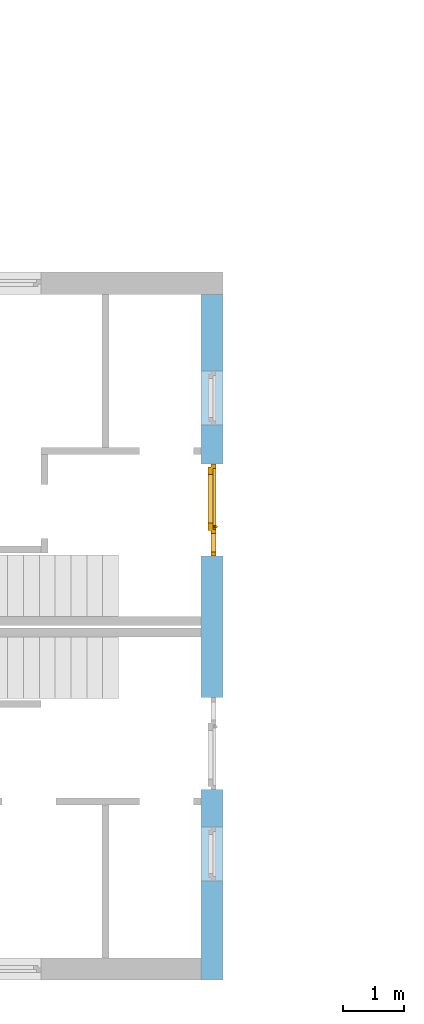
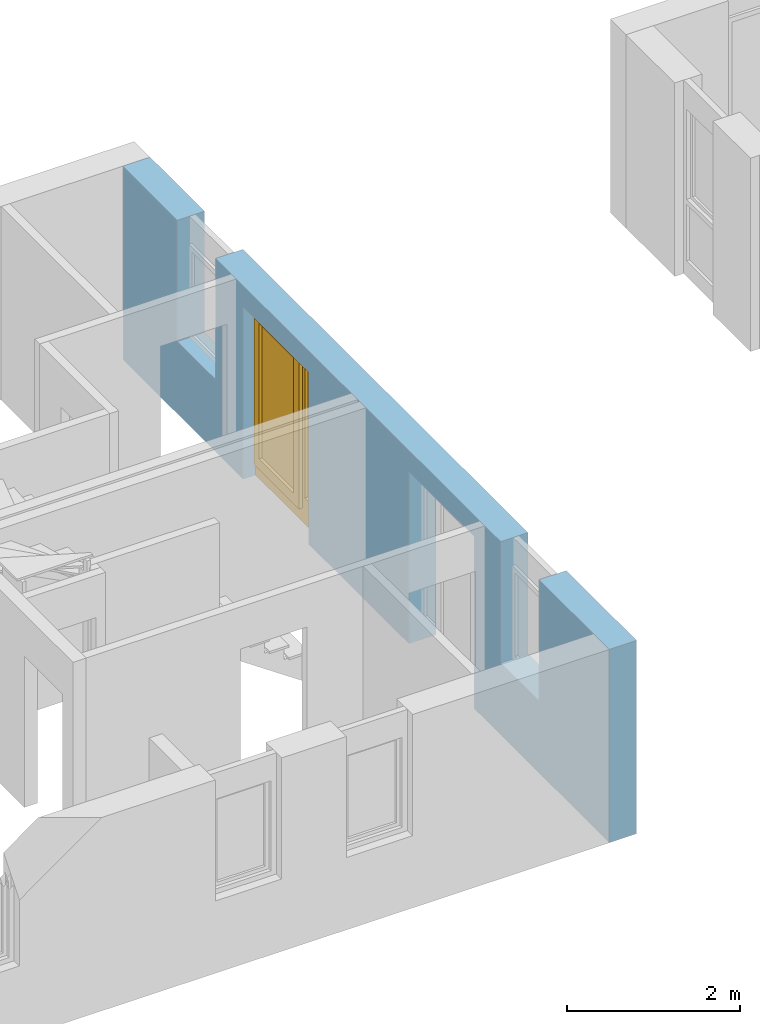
# One storey, part 8 of 41: 1 door, 4 openings, plus 1 element that does not belong to this part.
"""IFC2X3 building model written with IfcOpenShell, lengths in millimetres."""

import ifcopenshell
import ifcopenshell.guid

model = None  # the IFC model being written
_history = None  # IfcOwnerHistory: only IFC2X3 demands one
_inside = {}  # id of a spatial element -> (the spatial element, [elements in it])
_under = {}  # id of a project, library or spatial element -> (it, [spatial elements below it])
_declared = {}  # id of a project -> (the project, [libraries it declares])
_typed = {}  # id of a type object -> (the type object, [elements of that type])
_made_of = {}  # id of a material, layer set ... -> (it, [elements and type objects made of it])


def new_model(schema):
    """Start an empty IFC model of exactly this schema.

    Asked for "IFC4X3", IfcOpenShell would pick the latest addendum, in which some entities
    have other attributes; the version numbers below select the first issue.
    IFC2X3 requires an IfcOwnerHistory on every rooted entity: one is made here for all.
    """
    global model, _history
    if schema == "IFC4X3":
        model = ifcopenshell.file(schema_version=(4, 3, 0, 0))
    else:
        model = ifcopenshell.file(schema=schema)
    _inside.clear()
    _under.clear()
    _declared.clear()
    _typed.clear()
    _made_of.clear()
    _history = None
    if model.schema == "IFC2X3":
        org = make("IfcOrganization", Name="unknown")
        user = make(
            "IfcPersonAndOrganization",
            ThePerson=make("IfcPerson", FamilyName="unknown"),
            TheOrganization=org,
        )
        app = make(
            "IfcApplication",
            ApplicationDeveloper=org,
            Version="unknown",
            ApplicationFullName="unknown",
            ApplicationIdentifier="unknown",
        )
        _history = make(
            "IfcOwnerHistory",
            OwningUser=user,
            OwningApplication=app,
            ChangeAction="ADDED",
            CreationDate=0,
        )
    return model


def make(cls, **values):
    """One entity of the class cls with the attributes given. An attribute that is None is left unset."""
    return model.create_entity(
        cls, **{name: value for name, value in values.items() if value is not None}
    )


def entity(cls, *values):
    """Any entity or typed value of the class cls, its attributes in the order of the schema. None: left unset."""
    e = model.create_entity(cls)
    for i, value in enumerate(values):
        if value is not None:
            e[i] = value
    return e


def rooted(cls, **values):
    """An entity with a GlobalId (a new one), such as an element, a storey or a relation."""
    return make(cls, GlobalId=ifcopenshell.guid.new(), OwnerHistory=_history, **values)


def si_unit(unit_type, name, prefix=None):
    """IfcSIUnit, for example si_unit("LENGTHUNIT", "METRE", prefix="MILLI")."""
    return make("IfcSIUnit", UnitType=unit_type, Prefix=prefix, Name=name)


def converted_unit(unit_type, name, factor, base, dimensions=None, offset=None):
    """IfcConversionBasedUnit, such as the inch: factor (a typed value) times the base unit."""
    return make(
        "IfcConversionBasedUnit"
        if offset is None
        else "IfcConversionBasedUnitWithOffset",
        ConversionOffset=offset,
        Dimensions=None
        if dimensions is None
        else entity("IfcDimensionalExponents", *dimensions),
        UnitType=unit_type,
        Name=name,
        ConversionFactor=make(
            "IfcMeasureWithUnit", ValueComponent=factor, UnitComponent=base
        ),
    )


def assignment(units):
    """IfcUnitAssignment: the units of a project."""
    return None if units is None else make("IfcUnitAssignment", Units=units)


def point(xyz):
    """IfcCartesianPoint."""
    return None if xyz is None else make("IfcCartesianPoint", Coordinates=xyz)


def direction(xyz):
    """IfcDirection."""
    return None if xyz is None else make("IfcDirection", DirectionRatios=xyz)


def frame(location, z_axis=None, x_axis=None):
    """IfcAxis2Placement3D, a coordinate frame: its origin and axes. An axis left out is left unset."""
    return make(
        "IfcAxis2Placement3D",
        Location=point(location),
        Axis=direction(z_axis),
        RefDirection=direction(x_axis),
    )


def frame_2d(location, x_axis=None):
    """IfcAxis2Placement2D, a coordinate frame in the plane: its origin and x axis."""
    return make(
        "IfcAxis2Placement2D", Location=point(location), RefDirection=direction(x_axis)
    )


def origin():
    """The frame at (0, 0, 0) with its axes left unset."""
    return frame((0.0, 0.0, 0.0))


def origin_with_axes():
    """The frame at (0, 0, 0) with the z axis (0, 0, 1) and the x axis (1, 0, 0) written out."""
    return frame((0.0, 0.0, 0.0), z_axis=(0.0, 0.0, 1.0), x_axis=(1.0, 0.0, 0.0))


def place(relative_to, where):
    """IfcLocalPlacement: puts the frame where relative to a parent placement (None: the world)."""
    return make(
        "IfcLocalPlacement", PlacementRelTo=relative_to, RelativePlacement=where
    )


def context(
    kind, dimensions, precision=None, world=None, true_north=None, identifier=None
):
    """IfcGeometricRepresentationContext, for example the 3D "Model" context."""
    return make(
        "IfcGeometricRepresentationContext",
        ContextIdentifier=identifier,
        ContextType=kind,
        CoordinateSpaceDimension=dimensions,
        Precision=precision,
        WorldCoordinateSystem=world,
        TrueNorth=true_north,
    )


def subcontext(parent, identifier, kind, view, scale=None):
    """IfcGeometricRepresentationSubContext, for example "Body" below "Model"."""
    return make(
        "IfcGeometricRepresentationSubContext",
        ContextIdentifier=identifier,
        ContextType=kind,
        ParentContext=parent,
        TargetScale=scale,
        TargetView=view,
    )


def project(units=None, contexts=None):
    """IfcProject with its units and contexts."""
    return rooted(
        "IfcProject",
        Name="project",
        RepresentationContexts=contexts,
        UnitsInContext=assignment(units),
    )


def spatial(cls, under=None, at=None, **own):
    """A site, building, storey or space (cls), placed at a placement, below another one or the project."""
    s = rooted(cls, ObjectPlacement=at, **own)
    if under is not None:
        _under.setdefault(under.id(), (under, []))[1].append(s)
    return s


def profile(cls, at=None, kind="AREA", **sizes):
    """A parametric profile (cls). Its sizes go by their IFC names, for example OverallWidth=200.0."""
    return make(cls, ProfileType=kind, Position=at, **sizes)


def rectangle(**sizes):
    """IfcRectangleProfileDef."""
    return profile("IfcRectangleProfileDef", **sizes)


def extrude(swept, where, along, depth):
    """IfcExtrudedAreaSolid: the profile swept, set in the frame where, extruded along a direction by depth."""
    return make(
        "IfcExtrudedAreaSolid",
        SweptArea=swept,
        Position=where,
        ExtrudedDirection=direction(along),
        Depth=depth,
    )


def faces_of(points, faces, orient=None, outer=None):
    """IfcFace entities. A face is a list of loops; a loop is a list of indices into points, from 0.

    orient and outer hold one flag for each loop. By default every Orientation is true, the
    first loop of a face is its IfcFaceOuterBound and the others are IfcFaceBound.
    """
    made = []
    for i, loops in enumerate(faces):
        bounds = []
        for j, loop in enumerate(loops):
            is_outer = j == 0 if outer is None else outer[i][j]
            bounds.append(
                make(
                    "IfcFaceOuterBound" if is_outer else "IfcFaceBound",
                    Bound=make("IfcPolyLoop", Polygon=[points[k] for k in loop]),
                    Orientation=True if orient is None else orient[i][j],
                )
            )
        made.append(make("IfcFace", Bounds=bounds))
    return made


def faceted_brep(points, faces, orient=None, outer=None, voids=None):
    """IfcFacetedBrep: a solid bounded by flat faces; with voids (closed shells), ...WithVoids."""
    shared = [point(p) for p in points]
    hull = make("IfcClosedShell", CfsFaces=faces_of(shared, faces, orient, outer))
    if voids is None:
        return make("IfcFacetedBrep", Outer=hull)
    return make(
        "IfcFacetedBrepWithVoids",
        Outer=hull,
        Voids=[
            make(cls, CfsFaces=faces_of(shared, fs, o, b)) for cls, fs, o, b in voids
        ],
    )


def shape(context_of_items, identifier, shape_type, items):
    """IfcShapeRepresentation: the items that make up one representation, for example the "Body"."""
    return make(
        "IfcShapeRepresentation",
        ContextOfItems=context_of_items,
        RepresentationIdentifier=identifier,
        RepresentationType=shape_type,
        Items=items,
    )


def material(Name=None, Category=None):
    """IfcMaterial."""
    return make("IfcMaterial", Name=Name, Category=Category)


def layer(
    of_material, thickness, ventilated=None, Name=None, Category=None, Priority=None
):
    """IfcMaterialLayer: one layer of a wall or slab, of a material (None: an air gap)."""
    return make(
        "IfcMaterialLayer",
        Material=of_material,
        LayerThickness=thickness,
        IsVentilated=ventilated,
        Name=Name,
        Category=Category,
        Priority=Priority,
    )


def layer_set(layers, Name=None):
    """IfcMaterialLayerSet."""
    return make("IfcMaterialLayerSet", MaterialLayers=layers, LayerSetName=Name)


def layer_usage(for_layer_set, set_direction, sense, offset, extent=None):
    """IfcMaterialLayerSetUsage: how a layer set lies in its element."""
    return make(
        "IfcMaterialLayerSetUsage",
        ForLayerSet=for_layer_set,
        LayerSetDirection=set_direction,
        DirectionSense=sense,
        OffsetFromReferenceLine=offset,
        ReferenceExtent=extent,
    )


def made_of(thing, what):
    """Note that an element or type object is made of a material, layer set ...; save() writes the relation."""
    if what is not None:
        _made_of.setdefault(what.id(), (what, []))[1].append(thing)
    return thing


def type_object(cls, material=None, **own):
    """A type object (cls), such as IfcWallType, which elements share."""
    return made_of(rooted(cls, **own), material)


def element(
    cls,
    number,
    at=None,
    inside=None,
    cuts=None,
    type_object=None,
    material=None,
    context=None,
    identifier="Body",
    shape_type=None,
    held_by="IfcProductDefinitionShape",
    body=None,
    shapes=None,
    **own,
):
    """One element of the class cls, such as IfcWall. Its Tag is "e" and its number.

    at: its placement. inside: the storey or other place that contains it. cuts: it is an
    opening in that element (IfcRelVoidsElement). A single representation is given by context,
    identifier, shape_type and body (its items); several are given by shapes. held_by: the class
    of the entity that holds the representations. save() writes the other relations.
    """
    e = rooted(cls, Tag="e%d" % number, ObjectPlacement=at, **own)
    if body is not None:
        shapes = [shape(context, identifier, shape_type, body)]
    if shapes is not None:
        e.Representation = make(held_by, Representations=shapes)
    if inside is not None:
        _inside.setdefault(inside.id(), (inside, []))[1].append(e)
    if cuts is not None:
        rooted(
            "IfcRelVoidsElement", RelatingBuildingElement=cuts, RelatedOpeningElement=e
        )
    if type_object is not None:
        _typed.setdefault(type_object.id(), (type_object, []))[1].append(e)
    return made_of(e, material)


def fill(opening, filler):
    """IfcRelFillsElement: the door or window that sits in an opening."""
    return rooted(
        "IfcRelFillsElement",
        RelatingOpeningElement=opening,
        RelatedBuildingElement=filler,
    )


def aggregate(whole, parts):
    """IfcRelAggregates: a whole, such as a stair, and the parts it consists of."""
    return rooted("IfcRelAggregates", RelatingObject=whole, RelatedObjects=parts)


def save(model, path):
    """Write the relations noted so far, then the file.

    IfcRelAggregates (storeys below a building ...), IfcRelContainedInSpatialStructure (elements
    in a storey), IfcRelDefinesByType, IfcRelAssociatesMaterial and IfcRelDeclares: one each for
    every whole, place, type object, material and project.
    """
    for whole, parts in _under.values():
        aggregate(whole, parts)
    for where, things in _inside.values():
        rooted(
            "IfcRelContainedInSpatialStructure",
            RelatedElements=things,
            RelatingStructure=where,
        )
    for kind, things in _typed.values():
        rooted("IfcRelDefinesByType", RelatedObjects=things, RelatingType=kind)
    for what, things in _made_of.values():
        rooted("IfcRelAssociatesMaterial", RelatedObjects=things, RelatingMaterial=what)
    for by, libraries in _declared.values():
        rooted("IfcRelDeclares", RelatingContext=by, RelatedDefinitions=libraries)
    model.write(path)


model = new_model("IFC2X3")

# Units and contexts
model_context = context("Model", 3, precision=1e-05, world=origin())
body_context = subcontext(model_context, "Body", "Model", "MODEL_VIEW")
ifc_project = project(units=[si_unit("LENGTHUNIT", "METRE", prefix="MILLI"), converted_unit("PLANEANGLEUNIT", "DEGREE", entity("IfcPlaneAngleMeasure", 0.0174532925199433), si_unit("PLANEANGLEUNIT", "RADIAN"), dimensions=[0, 0, 0, 0, 0, 0, 0]), si_unit("AREAUNIT", "SQUARE_METRE"), si_unit("VOLUMEUNIT", "CUBIC_METRE")], contexts=[model_context])

# Building, storey
building_placement = place(None, origin())
building = spatial("IfcBuilding", under=ifc_project, at=building_placement, Name="Gebäude", CompositionType="ELEMENT")
storey_placement = place(building_placement, frame((0.0, 0.0, -200.0), z_axis=(0.0, 0.0, 1.0), x_axis=(1.0, 0.0, 0.0)))
storey = spatial("IfcBuildingStorey", under=building, at=storey_placement, Name="EG.- Grundriss", CompositionType="ELEMENT", Elevation=-200.0)

# Wall, openings, door
ifc_material_1 = material(Name="Poroton")
ifc_layer = layer(ifc_material_1, 365.0000000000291)
ifc_layer_set = layer_set([ifc_layer])
ifc_layer_usage = layer_usage(ifc_layer_set, "AXIS2", "POSITIVE", 0.0)
wall_placement = place(storey_placement, frame((142357.7928067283, 125274.8877321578, 0.0), z_axis=(0.0, 0.0, 1.0), x_axis=(0.0, 1.0, 0.0)))
wall = element("IfcWallStandardCase", 1, at=wall_placement, inside=storey, material=ifc_layer_usage, Name="<Unnamed Element>", context=body_context, shape_type="SweptSolid", body=[
    extrude(rectangle(XDim=11250.00000031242, YDim=365.0000000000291, at=frame_2d((5625.000000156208, 182.5000000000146), x_axis=(1.0, 0.0))), origin_with_axes(), (0.0, 0.0, 1.0), 2730.0),
])
opening_1_placement = place(wall_placement, frame((6955.000000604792, 0.0, 0.0), z_axis=(0.0, 1.0, 0.0), x_axis=(0.0, 0.0, 1.0)))
opening_1 = element("IfcOpeningElement", 2, at=opening_1_placement, cuts=wall, Name="Türöffnung", ObjectType="Opening", context=body_context, shape_type="SweptSolid", body=[
    extrude(rectangle(XDim=2430.0, YDim=1510.0, at=frame_2d((1215.0, 755.0), x_axis=(1.0, 0.0))), origin_with_axes(), (0.0, 0.0, 1.0), 365.0000000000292),
])
opening_2_placement = place(wall_placement, frame((3125.0, 0.0, 0.0), z_axis=(0.0, 1.0, 0.0), x_axis=(0.0, 0.0, 1.0)))
element("IfcOpeningElement", 3, at=opening_2_placement, cuts=wall, Name="Türöffnung", ObjectType="Opening", context=body_context, shape_type="SweptSolid", body=[
    extrude(rectangle(XDim=2430.0, YDim=1510.0, at=frame_2d((1215.0, 755.0), x_axis=(1.0, 0.0))), origin_with_axes(), (0.0, 0.0, 1.0), 365.0000000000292),
])
opening_3_placement = place(wall_placement, frame((9105.000000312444, 0.0, 1020.0), z_axis=(0.0, 1.0, 0.0), x_axis=(0.0, 0.0, 1.0)))
element("IfcOpeningElement", 4, at=opening_3_placement, cuts=wall, Name="Fensteröffnung", ObjectType="Opening", context=body_context, shape_type="SweptSolid", body=[
    extrude(rectangle(XDim=1710.0, YDim=885.0, at=frame_2d((855.0, 442.5), x_axis=(1.0, 0.0))), origin_with_axes(), (0.0, 0.0, 1.0), 365.0000000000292),
])
opening_4_placement = place(wall_placement, frame((1625.0, 0.0, 1020.0), z_axis=(0.0, 1.0, 0.0), x_axis=(0.0, 0.0, 1.0)))
element("IfcOpeningElement", 5, at=opening_4_placement, cuts=wall, Name="Fensteröffnung", ObjectType="Opening", context=body_context, shape_type="SweptSolid", body=[
    extrude(rectangle(XDim=1710.0, YDim=885.0, at=frame_2d((855.0, 442.5), x_axis=(1.0, 0.0))), origin_with_axes(), (0.0, 0.0, 1.0), 365.0000000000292),
])
ifc_material_2 = material()
door_style = type_object("IfcDoorStyle", Name="Tür", ConstructionType="NOTDEFINED", OperationType="USERDEFINED", ParameterTakesPrecedence=False, Sizeable=False)
door_placement = place(opening_1_placement, frame((0.0, 0.0, 0.0), z_axis=(1.0, 0.0, 0.0), x_axis=(0.0, 1.0, 0.0)))
door = element("IfcDoor", 6, at=door_placement, inside=storey, type_object=door_style, material=ifc_material_2, Name="Tür", OverallHeight=2430.0, OverallWidth=1510.0, context=body_context, shape_type="Brep", body=[
    faceted_brep([(1510.0, 200.0000000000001, 2430.0), (1440.0, 200.0000000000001, 2430.0), (1440.0, 200.0, -2.449293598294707e-15), (1510.0, 200.0, -2.449293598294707e-15), (1510.0, 120.0, 2.449293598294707e-15), (1440.0, 120.0, 2.449293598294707e-15), (1440.0, 120.0000000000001, 2430.0), (1510.0, 120.0000000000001, 2430.0), (1510.0, 200.0, -2.449293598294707e-15), (1510.0, 120.0, 2.449293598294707e-15), (1510.0, 120.0000000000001, 2430.0), (1510.0, 200.0000000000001, 2430.0), (1440.0, 200.0, -2.449293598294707e-15), (1440.0, 120.0, 2.449293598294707e-15), (1510.0, 120.0, 2.449293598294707e-15), (1510.0, 200.0, -2.449293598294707e-15), (1440.0, 200.0000000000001, 2430.0), (1440.0, 120.0000000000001, 2430.0), (1440.0, 120.0, 2.449293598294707e-15), (1440.0, 200.0, -2.449293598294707e-15), (1510.0, 200.0000000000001, 2430.0), (1510.0, 120.0000000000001, 2430.0), (1440.0, 120.0000000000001, 2430.0), (1440.0, 200.0000000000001, 2430.0)], [[[0, 1, 2, 3]], [[4, 5, 6, 7]], [[8, 9, 10, 11]], [[12, 13, 14, 15]], [[16, 17, 18, 19]], [[20, 21, 22, 23]]], orient=[[False], [False], [False], [False], [False], [False]]),
    faceted_brep([(70.0, 200.0000000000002, 2430.0), (0.0, 200.0000000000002, 2430.0), (0.0, 200.0000000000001, -2.449293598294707e-15), (70.0, 200.0000000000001, -2.449293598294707e-15), (70.0, 120.0000000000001, 2.449293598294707e-15), (0.0, 120.0000000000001, 2.449293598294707e-15), (0.0, 120.0000000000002, 2430.0), (70.0, 120.0000000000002, 2430.0), (70.0, 200.0000000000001, -2.449293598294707e-15), (70.0, 120.0000000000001, 2.449293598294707e-15), (70.0, 120.0000000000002, 2430.0), (70.0, 200.0000000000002, 2430.0), (0.0, 200.0000000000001, -2.449293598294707e-15), (0.0, 120.0000000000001, 2.449293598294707e-15), (70.0, 120.0000000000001, 2.449293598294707e-15), (70.0, 200.0000000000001, -2.449293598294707e-15), (0.0, 200.0000000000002, 2430.0), (0.0, 120.0000000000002, 2430.0), (0.0, 120.0000000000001, 2.449293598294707e-15), (0.0, 200.0000000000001, -2.449293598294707e-15), (70.0, 200.0000000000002, 2430.0), (70.0, 120.0000000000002, 2430.0), (0.0, 120.0000000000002, 2430.0), (0.0, 200.0000000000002, 2430.0)], [[[0, 1, 2, 3]], [[4, 5, 6, 7]], [[8, 9, 10, 11]], [[12, 13, 14, 15]], [[16, 17, 18, 19]], [[20, 21, 22, 23]]], orient=[[False], [False], [False], [False], [False], [False]]),
    faceted_brep([(1440.0, 200.0, 220.0), (70.00000000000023, 200.0000000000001, 220.0), (70.00000000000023, 200.0000000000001, -2.449293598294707e-15), (1440.0, 200.0, -2.449293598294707e-15), (1440.0, 120.0, 2.449293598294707e-15), (70.00000000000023, 120.0000000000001, 2.449293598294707e-15), (70.00000000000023, 120.0000000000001, 220.0), (1440.0, 120.0, 220.0), (1440.0, 200.0, -2.449293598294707e-15), (1440.0, 120.0, 2.449293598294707e-15), (1440.0, 120.0, 220.0), (1440.0, 200.0, 220.0), (70.00000000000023, 200.0000000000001, -2.449293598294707e-15), (70.00000000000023, 120.0000000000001, 2.449293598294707e-15), (1440.0, 120.0, 2.449293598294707e-15), (1440.0, 200.0, -2.449293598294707e-15), (70.00000000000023, 200.0000000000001, 220.0), (70.00000000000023, 120.0000000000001, 220.0), (70.00000000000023, 120.0000000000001, 2.449293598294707e-15), (70.00000000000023, 200.0000000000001, -2.449293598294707e-15), (1440.0, 200.0, 220.0), (1440.0, 120.0, 220.0), (70.00000000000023, 120.0000000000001, 220.0), (70.00000000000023, 200.0000000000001, 220.0)], [[[0, 1, 2, 3]], [[4, 5, 6, 7]], [[8, 9, 10, 11]], [[12, 13, 14, 15]], [[16, 17, 18, 19]], [[20, 21, 22, 23]]], orient=[[False], [False], [False], [False], [False], [False]]),
    faceted_brep([(1440.0, 200.0000000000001, 2430.000000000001), (70.00000000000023, 200.0000000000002, 2430.000000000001), (70.00000000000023, 200.0000000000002, 2360.000000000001), (1440.0, 200.0000000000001, 2360.000000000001), (1440.0, 120.0000000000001, 2360.000000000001), (70.00000000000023, 120.0000000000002, 2360.000000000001), (70.00000000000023, 120.0000000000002, 2430.000000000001), (1440.0, 120.0000000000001, 2430.000000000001), (1440.0, 200.0000000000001, 2360.000000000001), (1440.0, 120.0000000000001, 2360.000000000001), (1440.0, 120.0000000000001, 2430.000000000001), (1440.0, 200.0000000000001, 2430.000000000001), (70.00000000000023, 200.0000000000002, 2360.000000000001), (70.00000000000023, 120.0000000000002, 2360.000000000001), (1440.0, 120.0000000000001, 2360.000000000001), (1440.0, 200.0000000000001, 2360.000000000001), (70.00000000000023, 200.0000000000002, 2430.000000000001), (70.00000000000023, 120.0000000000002, 2430.000000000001), (70.00000000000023, 120.0000000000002, 2360.000000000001), (70.00000000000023, 200.0000000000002, 2360.000000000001), (1440.0, 200.0000000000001, 2430.000000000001), (1440.0, 120.0000000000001, 2430.000000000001), (70.00000000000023, 120.0000000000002, 2430.000000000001), (70.00000000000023, 200.0000000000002, 2430.000000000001)], [[[0, 1, 2, 3]], [[4, 5, 6, 7]], [[8, 9, 10, 11]], [[12, 13, 14, 15]], [[16, 17, 18, 19]], [[20, 21, 22, 23]]], orient=[[False], [False], [False], [False], [False], [False]]),
    faceted_brep([(440.0, 200.0000000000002, 2360.0), (370.0, 200.0000000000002, 2360.0), (370.0, 200.0000000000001, 220.0), (440.0, 200.0000000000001, 220.0), (440.0, 120.0000000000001, 220.0), (370.0, 120.0000000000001, 220.0), (370.0, 120.0000000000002, 2360.0), (440.0, 120.0000000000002, 2360.0), (440.0, 200.0000000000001, 220.0), (440.0, 120.0000000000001, 220.0), (440.0, 120.0000000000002, 2360.0), (440.0, 200.0000000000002, 2360.0), (370.0, 200.0000000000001, 220.0), (370.0, 120.0000000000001, 220.0), (440.0, 120.0000000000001, 220.0), (440.0, 200.0000000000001, 220.0), (370.0, 200.0000000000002, 2360.0), (370.0, 120.0000000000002, 2360.0), (370.0, 120.0000000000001, 220.0), (370.0, 200.0000000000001, 220.0), (440.0, 200.0000000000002, 2360.0), (440.0, 120.0000000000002, 2360.0), (370.0, 120.0000000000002, 2360.0), (370.0, 200.0000000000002, 2360.0)], [[[0, 1, 2, 3]], [[4, 5, 6, 7]], [[8, 9, 10, 11]], [[12, 13, 14, 15]], [[16, 17, 18, 19]], [[20, 21, 22, 23]]], orient=[[False], [False], [False], [False], [False], [False]]),
    faceted_brep([(1460.0, 250.0000000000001, 2380.0), (1340.0, 250.0000000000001, 2380.0), (1340.0, 250.0, 200.0), (1460.0, 250.0, 200.0), (1460.0, 170.0, 200.0), (1340.0, 170.0, 200.0), (1340.0, 170.0000000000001, 2380.0), (1460.0, 170.0000000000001, 2380.0), (1460.0, 250.0, 200.0), (1460.0, 170.0, 200.0), (1460.0, 170.0000000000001, 2380.0), (1460.0, 250.0000000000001, 2380.0), (1340.0, 250.0, 200.0), (1340.0, 170.0, 200.0), (1460.0, 170.0, 200.0), (1460.0, 250.0, 200.0), (1340.0, 250.0000000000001, 2380.0), (1340.0, 170.0000000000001, 2380.0), (1340.0, 170.0, 200.0), (1340.0, 250.0, 200.0), (1460.0, 250.0000000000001, 2380.0), (1460.0, 170.0000000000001, 2380.0), (1340.0, 170.0000000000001, 2380.0), (1340.0, 250.0000000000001, 2380.0)], [[[0, 1, 2, 3]], [[4, 5, 6, 7]], [[8, 9, 10, 11]], [[12, 13, 14, 15]], [[16, 17, 18, 19]], [[20, 21, 22, 23]]], orient=[[False], [False], [False], [False], [False], [False]]),
    faceted_brep([(540.0, 250.0000000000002, 2380.0), (420.0, 250.0000000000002, 2380.0), (420.0, 250.0000000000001, 200.0), (540.0, 250.0000000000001, 200.0), (540.0, 170.0000000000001, 200.0), (420.0, 170.0000000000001, 200.0), (420.0, 170.0000000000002, 2380.0), (540.0, 170.0000000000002, 2380.0), (540.0, 250.0000000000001, 200.0), (540.0, 170.0000000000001, 200.0), (540.0, 170.0000000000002, 2380.0), (540.0, 250.0000000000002, 2380.0), (420.0, 250.0000000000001, 200.0), (420.0, 170.0000000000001, 200.0), (540.0, 170.0000000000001, 200.0), (540.0, 250.0000000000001, 200.0), (420.0, 250.0000000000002, 2380.0), (420.0, 170.0000000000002, 2380.0), (420.0, 170.0000000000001, 200.0), (420.0, 250.0000000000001, 200.0), (540.0, 250.0000000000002, 2380.0), (540.0, 170.0000000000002, 2380.0), (420.0, 170.0000000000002, 2380.0), (420.0, 250.0000000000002, 2380.0)], [[[0, 1, 2, 3]], [[4, 5, 6, 7]], [[8, 9, 10, 11]], [[12, 13, 14, 15]], [[16, 17, 18, 19]], [[20, 21, 22, 23]]], orient=[[False], [False], [False], [False], [False], [False]]),
    faceted_brep([(1340.0, 250.0, 350.0), (540.0, 250.0000000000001, 350.0), (540.0, 250.0000000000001, 200.0), (1340.0, 250.0, 200.0), (1340.0, 170.0, 200.0), (540.0, 170.0000000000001, 200.0), (540.0, 170.0000000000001, 350.0), (1340.0, 170.0, 350.0), (1340.0, 250.0, 200.0), (1340.0, 170.0, 200.0), (1340.0, 170.0, 350.0), (1340.0, 250.0, 350.0), (540.0, 250.0000000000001, 200.0), (540.0, 170.0000000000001, 200.0), (1340.0, 170.0, 200.0), (1340.0, 250.0, 200.0), (540.0, 250.0000000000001, 350.0), (540.0, 170.0000000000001, 350.0), (540.0, 170.0000000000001, 200.0), (540.0, 250.0000000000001, 200.0), (1340.0, 250.0, 350.0), (1340.0, 170.0, 350.0), (540.0, 170.0000000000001, 350.0), (540.0, 250.0000000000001, 350.0)], [[[0, 1, 2, 3]], [[4, 5, 6, 7]], [[8, 9, 10, 11]], [[12, 13, 14, 15]], [[16, 17, 18, 19]], [[20, 21, 22, 23]]], orient=[[False], [False], [False], [False], [False], [False]]),
    faceted_brep([(1340.0, 250.0000000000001, 2380.0), (540.0, 250.0000000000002, 2380.0), (540.0, 250.0000000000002, 2260.0), (1340.0, 250.0000000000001, 2260.0), (1340.0, 170.0000000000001, 2260.0), (540.0, 170.0000000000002, 2260.0), (540.0, 170.0000000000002, 2380.0), (1340.0, 170.0000000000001, 2380.0), (1340.0, 250.0000000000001, 2260.0), (1340.0, 170.0000000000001, 2260.0), (1340.0, 170.0000000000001, 2380.0), (1340.0, 250.0000000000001, 2380.0), (540.0, 250.0000000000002, 2260.0), (540.0, 170.0000000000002, 2260.0), (1340.0, 170.0000000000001, 2260.0), (1340.0, 250.0000000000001, 2260.0), (540.0, 250.0000000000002, 2380.0), (540.0, 170.0000000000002, 2380.0), (540.0, 170.0000000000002, 2260.0), (540.0, 250.0000000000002, 2260.0), (1340.0, 250.0000000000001, 2380.0), (1340.0, 170.0000000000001, 2380.0), (540.0, 170.0000000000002, 2380.0), (540.0, 250.0000000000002, 2380.0)], [[[0, 1, 2, 3]], [[4, 5, 6, 7]], [[8, 9, 10, 11]], [[12, 13, 14, 15]], [[16, 17, 18, 19]], [[20, 21, 22, 23]]], orient=[[False], [False], [False], [False], [False], [False]]),
    faceted_brep([(460.0, 170.0000000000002, 1920.0), (462.6794919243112, 170.0000000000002, 1910.0), (470.0, 170.0000000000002, 1902.679491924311), (480.0, 170.0000000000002, 1900.0), (490.0, 170.0000000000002, 1902.679491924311), (497.3205080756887, 170.0000000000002, 1910.0), (500.0, 170.0000000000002, 1920.0), (497.3205080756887, 170.0000000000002, 1930.0), (490.0, 170.0000000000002, 1937.320508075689), (480.0, 170.0000000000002, 1940.0), (470.0, 170.0000000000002, 1937.320508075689), (462.6794919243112, 170.0000000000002, 1930.0), (460.0, 170.0000000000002, 1920.0), (462.6794919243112, 170.0000000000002, 1930.0), (462.6794919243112, 100.0000000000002, 1930.0), (460.0, 110.0000000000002, 1920.0), (462.6794919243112, 170.0000000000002, 1930.0), (470.0, 170.0000000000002, 1937.320508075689), (470.0, 92.6794919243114, 1937.320508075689), (462.6794919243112, 100.0000000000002, 1930.0), (470.0, 170.0000000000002, 1937.320508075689), (480.0, 170.0000000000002, 1940.0), (480.0, 90.00000000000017, 1940.0), (470.0, 92.6794919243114, 1937.320508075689), (480.0, 170.0000000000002, 1940.0), (490.0, 170.0000000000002, 1937.320508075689), (490.0, 92.6794919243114, 1937.320508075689), (480.0, 90.00000000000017, 1940.0), (490.0, 170.0000000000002, 1937.320508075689), (497.3205080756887, 170.0000000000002, 1930.0), (497.3205080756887, 100.0000000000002, 1930.0), (490.0, 92.6794919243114, 1937.320508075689), (497.3205080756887, 170.0000000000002, 1930.0), (500.0, 170.0000000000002, 1920.0), (500.0, 110.0000000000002, 1920.0), (497.3205080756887, 100.0000000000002, 1930.0), (500.0, 170.0000000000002, 1920.0), (497.3205080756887, 170.0000000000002, 1910.0), (497.3205080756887, 120.0000000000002, 1910.0), (500.0, 110.0000000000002, 1920.0), (497.3205080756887, 170.0000000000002, 1910.0), (490.0, 170.0000000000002, 1902.679491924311), (490.0, 127.3205080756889, 1902.679491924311), (497.3205080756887, 120.0000000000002, 1910.0), (490.0, 170.0000000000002, 1902.679491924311), (480.0, 170.0000000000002, 1900.0), (480.0, 130.0000000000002, 1900.0), (490.0, 127.3205080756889, 1902.679491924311), (480.0, 170.0000000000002, 1900.0), (470.0, 170.0000000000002, 1902.679491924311), (470.0, 127.320508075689, 1902.679491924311), (480.0, 130.0000000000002, 1900.0), (470.0, 170.0000000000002, 1902.679491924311), (462.6794919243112, 170.0000000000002, 1910.0), (462.6794919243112, 120.0000000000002, 1910.0), (470.0, 127.320508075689, 1902.679491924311), (462.6794919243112, 170.0000000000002, 1910.0), (460.0, 170.0000000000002, 1920.0), (460.0, 110.0000000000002, 1920.0), (462.6794919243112, 120.0000000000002, 1910.0), (460.0, 110.0000000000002, 1920.0), (462.6794919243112, 100.0000000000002, 1930.0), (462.6794919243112, 100.0000000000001, 610.0), (460.0, 110.0000000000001, 620.0), (462.6794919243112, 100.0000000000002, 1930.0), (470.0, 92.6794919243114, 1937.320508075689), (470.0, 92.67949192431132, 602.6794919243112), (462.6794919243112, 100.0000000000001, 610.0), (470.0, 92.6794919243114, 1937.320508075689), (480.0, 90.00000000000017, 1940.0), (480.0, 90.00000000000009, 600.0), (470.0, 92.67949192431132, 602.6794919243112), (480.0, 90.00000000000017, 1940.0), (490.0, 92.6794919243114, 1937.320508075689), (490.0, 92.67949192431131, 602.6794919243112), (480.0, 90.00000000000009, 600.0), (490.0, 92.6794919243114, 1937.320508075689), (497.3205080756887, 100.0000000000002, 1930.0), (497.3205080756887, 100.0000000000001, 610.0), (490.0, 92.67949192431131, 602.6794919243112), (497.3205080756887, 100.0000000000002, 1930.0), (500.0, 110.0000000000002, 1920.0), (500.0, 110.0000000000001, 620.0), (497.3205080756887, 100.0000000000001, 610.0), (500.0, 110.0000000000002, 1920.0), (497.3205080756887, 120.0000000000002, 1910.0), (497.3205080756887, 120.0000000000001, 630.0), (500.0, 110.0000000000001, 620.0), (497.3205080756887, 120.0000000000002, 1910.0), (490.0, 127.3205080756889, 1902.679491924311), (490.0, 127.3205080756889, 637.3205080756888), (497.3205080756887, 120.0000000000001, 630.0), (490.0, 127.3205080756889, 1902.679491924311), (480.0, 130.0000000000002, 1900.0), (480.0, 130.0000000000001, 640.0), (490.0, 127.3205080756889, 637.3205080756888), (480.0, 130.0000000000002, 1900.0), (470.0, 127.320508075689, 1902.679491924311), (470.0, 127.3205080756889, 637.3205080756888), (480.0, 130.0000000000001, 640.0), (470.0, 127.320508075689, 1902.679491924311), (462.6794919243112, 120.0000000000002, 1910.0), (462.6794919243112, 120.0000000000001, 630.0), (470.0, 127.3205080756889, 637.3205080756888), (462.6794919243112, 120.0000000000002, 1910.0), (460.0, 110.0000000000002, 1920.0), (460.0, 110.0000000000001, 620.0), (462.6794919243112, 120.0000000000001, 630.0), (460.0, 170.0000000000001, 620.0), (462.6794919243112, 170.0000000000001, 610.0), (470.0, 170.0000000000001, 602.6794919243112), (480.0, 170.0000000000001, 600.0), (489.9999999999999, 170.0000000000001, 602.6794919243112), (497.3205080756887, 170.0000000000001, 610.0), (499.9999999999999, 170.0000000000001, 620.0), (497.3205080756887, 170.0000000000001, 630.0), (489.9999999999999, 170.0000000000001, 637.3205080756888), (480.0, 170.0000000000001, 640.0), (470.0, 170.0000000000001, 637.3205080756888), (462.6794919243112, 170.0000000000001, 630.0), (460.0, 110.0000000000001, 620.0), (462.6794919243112, 100.0000000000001, 610.0), (462.6794919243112, 170.0000000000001, 610.0), (460.0, 170.0000000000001, 620.0), (462.6794919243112, 100.0000000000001, 610.0), (470.0, 92.67949192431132, 602.6794919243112), (470.0, 170.0000000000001, 602.6794919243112), (462.6794919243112, 170.0000000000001, 610.0), (470.0, 92.67949192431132, 602.6794919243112), (480.0, 90.00000000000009, 600.0), (480.0, 170.0000000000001, 600.0), (470.0, 170.0000000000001, 602.6794919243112), (480.0, 90.00000000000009, 600.0), (490.0, 92.67949192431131, 602.6794919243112), (489.9999999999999, 170.0000000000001, 602.6794919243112), (480.0, 170.0000000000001, 600.0), (490.0, 92.67949192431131, 602.6794919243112), (497.3205080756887, 100.0000000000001, 610.0), (497.3205080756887, 170.0000000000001, 610.0), (489.9999999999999, 170.0000000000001, 602.6794919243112), (497.3205080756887, 100.0000000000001, 610.0), (500.0, 110.0000000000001, 620.0), (499.9999999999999, 170.0000000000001, 620.0), (497.3205080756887, 170.0000000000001, 610.0), (500.0, 110.0000000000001, 620.0), (497.3205080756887, 120.0000000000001, 630.0), (497.3205080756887, 170.0000000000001, 630.0), (499.9999999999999, 170.0000000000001, 620.0), (497.3205080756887, 120.0000000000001, 630.0), (490.0, 127.3205080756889, 637.3205080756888), (489.9999999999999, 170.0000000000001, 637.3205080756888), (497.3205080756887, 170.0000000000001, 630.0), (490.0, 127.3205080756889, 637.3205080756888), (480.0, 130.0000000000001, 640.0), (480.0, 170.0000000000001, 640.0), (489.9999999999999, 170.0000000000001, 637.3205080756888), (480.0, 130.0000000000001, 640.0), (470.0, 127.3205080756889, 637.3205080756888), (470.0, 170.0000000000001, 637.3205080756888), (480.0, 170.0000000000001, 640.0), (470.0, 127.3205080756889, 637.3205080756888), (462.6794919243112, 120.0000000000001, 630.0), (462.6794919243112, 170.0000000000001, 630.0), (470.0, 170.0000000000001, 637.3205080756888), (462.6794919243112, 120.0000000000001, 630.0), (460.0, 110.0000000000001, 620.0), (460.0, 170.0000000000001, 620.0), (462.6794919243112, 170.0000000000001, 630.0)], [[[0, 1, 2, 3, 4, 5, 6, 7, 8, 9, 10, 11]], [[12, 13, 14, 15]], [[16, 17, 18, 19]], [[20, 21, 22, 23]], [[24, 25, 26, 27]], [[28, 29, 30, 31]], [[32, 33, 34, 35]], [[36, 37, 38, 39]], [[40, 41, 42, 43]], [[44, 45, 46, 47]], [[48, 49, 50, 51]], [[52, 53, 54, 55]], [[56, 57, 58, 59]], [[60, 61, 62, 63]], [[64, 65, 66, 67]], [[68, 69, 70, 71]], [[72, 73, 74, 75]], [[76, 77, 78, 79]], [[80, 81, 82, 83]], [[84, 85, 86, 87]], [[88, 89, 90, 91]], [[92, 93, 94, 95]], [[96, 97, 98, 99]], [[100, 101, 102, 103]], [[104, 105, 106, 107]], [[108, 109, 110, 111, 112, 113, 114, 115, 116, 117, 118, 119]], [[120, 121, 122, 123]], [[124, 125, 126, 127]], [[128, 129, 130, 131]], [[132, 133, 134, 135]], [[136, 137, 138, 139]], [[140, 141, 142, 143]], [[144, 145, 146, 147]], [[148, 149, 150, 151]], [[152, 153, 154, 155]], [[156, 157, 158, 159]], [[160, 161, 162, 163]], [[164, 165, 166, 167]]], orient=[[False], [False], [False], [False], [False], [False], [False], [False], [False], [False], [False], [False], [False], [False], [False], [False], [False], [False], [False], [False], [False], [False], [False], [False], [False], [False], [False], [False], [False], [False], [False], [False], [False], [False], [False], [False], [False], [False]]),
    faceted_brep([(369.9999999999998, 200.0000000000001, 370.0), (70.0, 200.0000000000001, 370.0), (70.0, 200.0000000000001, 220.0), (369.9999999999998, 200.0000000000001, 220.0), (369.9999999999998, 120.0000000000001, 220.0), (70.0, 120.0000000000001, 220.0), (70.0, 120.0000000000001, 370.0), (369.9999999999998, 120.0000000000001, 370.0), (369.9999999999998, 200.0000000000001, 220.0), (369.9999999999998, 120.0000000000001, 220.0), (369.9999999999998, 120.0000000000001, 370.0), (369.9999999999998, 200.0000000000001, 370.0), (70.0, 200.0000000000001, 220.0), (70.0, 120.0000000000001, 220.0), (369.9999999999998, 120.0000000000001, 220.0), (369.9999999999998, 200.0000000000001, 220.0), (70.0, 200.0000000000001, 370.0), (70.0, 120.0000000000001, 370.0), (70.0, 120.0000000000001, 220.0), (70.0, 200.0000000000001, 220.0), (369.9999999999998, 200.0000000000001, 370.0), (369.9999999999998, 120.0000000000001, 370.0), (70.0, 120.0000000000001, 370.0), (70.0, 200.0000000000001, 370.0)], [[[0, 1, 2, 3]], [[4, 5, 6, 7]], [[8, 9, 10, 11]], [[12, 13, 14, 15]], [[16, 17, 18, 19]], [[20, 21, 22, 23]]], orient=[[False], [False], [False], [False], [False], [False]]),
    faceted_brep([(1340.0, 210.0000000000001, 350.0), (1340.0, 210.0000000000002, 2260.0), (540.0, 210.0000000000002, 2260.0), (540.0, 210.0000000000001, 350.0), (1340.0, 209.0000000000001, 350.0), (540.0, 209.0000000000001, 350.0), (540.0, 209.0000000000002, 2260.0), (1340.0, 209.0000000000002, 2260.0), (1340.0, 210.0000000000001, 350.0), (1340.0, 209.0000000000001, 350.0), (1340.0, 209.0000000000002, 2260.0), (1340.0, 210.0000000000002, 2260.0), (1340.0, 210.0000000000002, 2260.0), (1340.0, 209.0000000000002, 2260.0), (540.0, 209.0000000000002, 2260.0), (540.0, 210.0000000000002, 2260.0), (540.0, 210.0000000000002, 2260.0), (540.0, 209.0000000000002, 2260.0), (540.0, 209.0000000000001, 350.0), (540.0, 210.0000000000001, 350.0), (540.0, 210.0000000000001, 350.0), (540.0, 209.0000000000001, 350.0), (1340.0, 209.0000000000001, 350.0), (1340.0, 210.0000000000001, 350.0)], [[[0, 1, 2, 3]], [[4, 5, 6, 7]], [[8, 9, 10, 11]], [[12, 13, 14, 15]], [[16, 17, 18, 19]], [[20, 21, 22, 23]]], orient=[[False], [False], [False], [False], [False], [False]]),
    faceted_brep([(369.9999999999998, 160.0000000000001, 370.0), (369.9999999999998, 160.0000000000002, 2360.0), (70.0, 160.0000000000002, 2360.0), (70.0, 160.0000000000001, 370.0), (369.9999999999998, 159.0000000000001, 370.0), (70.0, 159.0000000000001, 370.0), (70.0, 159.0000000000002, 2360.0), (369.9999999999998, 159.0000000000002, 2360.0), (369.9999999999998, 160.0000000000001, 370.0), (369.9999999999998, 159.0000000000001, 370.0), (369.9999999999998, 159.0000000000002, 2360.0), (369.9999999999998, 160.0000000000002, 2360.0), (369.9999999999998, 160.0000000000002, 2360.0), (369.9999999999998, 159.0000000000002, 2360.0), (70.0, 159.0000000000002, 2360.0), (70.0, 160.0000000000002, 2360.0), (70.0, 160.0000000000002, 2360.0), (70.0, 159.0000000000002, 2360.0), (70.0, 159.0000000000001, 370.0), (70.0, 160.0000000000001, 370.0), (70.0, 160.0000000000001, 370.0), (70.0, 159.0000000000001, 370.0), (369.9999999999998, 159.0000000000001, 370.0), (369.9999999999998, 160.0000000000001, 370.0)], [[[0, 1, 2, 3]], [[4, 5, 6, 7]], [[8, 9, 10, 11]], [[12, 13, 14, 15]], [[16, 17, 18, 19]], [[20, 21, 22, 23]]], orient=[[False], [False], [False], [False], [False], [False]]),
])
fill(opening_1, door)

save(model, "model.ifc")
